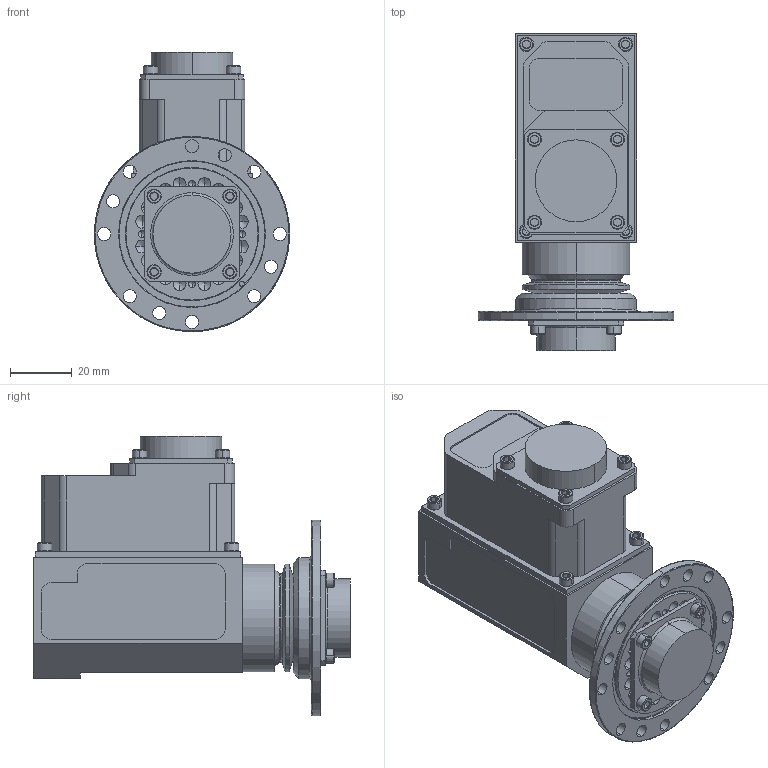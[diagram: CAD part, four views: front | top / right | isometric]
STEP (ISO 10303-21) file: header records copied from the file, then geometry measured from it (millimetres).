
FILE_DESCRIPTION (( 'STEP AP203' ), '1' );
FILE_NAME ('1007760.STEP', '2017-05-19T15:01:32', ( '' ), ( '' ), 'SwSTEP 2.0', 'SolidWorks 2014', '' );
FILE_SCHEMA (( 'CONFIG_CONTROL_DESIGN' ));
Length unit declared in the file: inch
Products named in the file (1): 1007760
Bounding box: 63.47 x 103.04 x 90.82 mm (x, y, z)
Volume: 192009.8 mm3; surface area: 31623 mm2
Topology: 1 solids, 5 shells, 553 faces, 1317 edges, 766 vertices
Faces by surface type: plane 198, cone 189, cylinder 146, bspline 16, torus 4
Entity records: 17193 total; most frequent: CARTESIAN_POINT 4467, DIRECTION 2774, ORIENTED_EDGE 2538, EDGE_CURVE 1269, AXIS2_PLACEMENT_3D 1077, VERTEX_POINT 766, VECTOR 620, LINE 620
